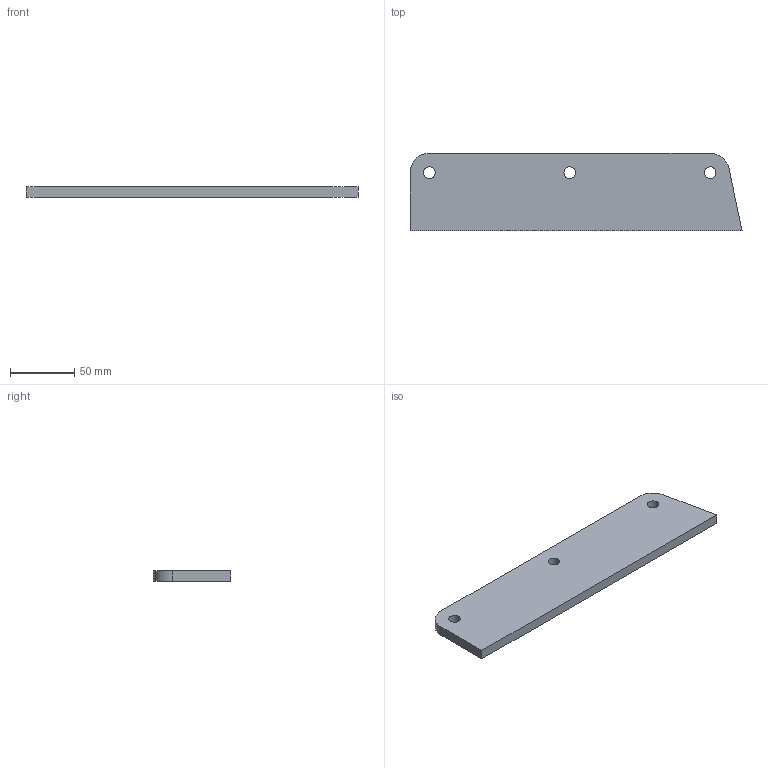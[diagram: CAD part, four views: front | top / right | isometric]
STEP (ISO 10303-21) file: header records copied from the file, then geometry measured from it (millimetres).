
FILE_DESCRIPTION(/* description */ (''),/* implementation_level */ '2;1');
FILE_NAME(/* name */ 'Pos142-Plaatwerk D= 8-S235JRG2-3st',/* time_stamp */ '2024-08-06T13:37:44+02:00',/* author */ (''),/* organization */ (''),/* preprocessor_version */ 'ST-DEVELOPER v16.5',/* originating_system */ 'HiCAD 2024 2901.2 Build 361',/* authorisation */ '');
FILE_SCHEMA (('AUTOMOTIVE_DESIGN { 1 0 10303 214 1 1 1 1 }'));
Length unit declared in the file: millimetre
Products named in the file (1): Pos142-Plaatwerk D= 8-S235JRG2-3st
Bounding box: 257.79 x 60 x 8 mm (x, y, z)
Volume: 118573.6 mm3; surface area: 35233.7 mm2
Topology: 1 solids, 1 shells, 11 faces, 30 edges, 21 vertices
Faces by surface type: plane 6, cylinder 5
Full cylindrical faces by diameter (mm): 9 x3
Entity records: 586 total; most frequent: DIRECTION 56, CARTESIAN_POINT 53, PRESENTATION_STYLE_ASSIGNMENT 49, COLOUR_RGB 49, DRAUGHTING_PRE_DEFINED_CURVE_FONT 48, CURVE_STYLE 48, OVER_RIDING_STYLED_ITEM 48, ORIENTED_EDGE 48
